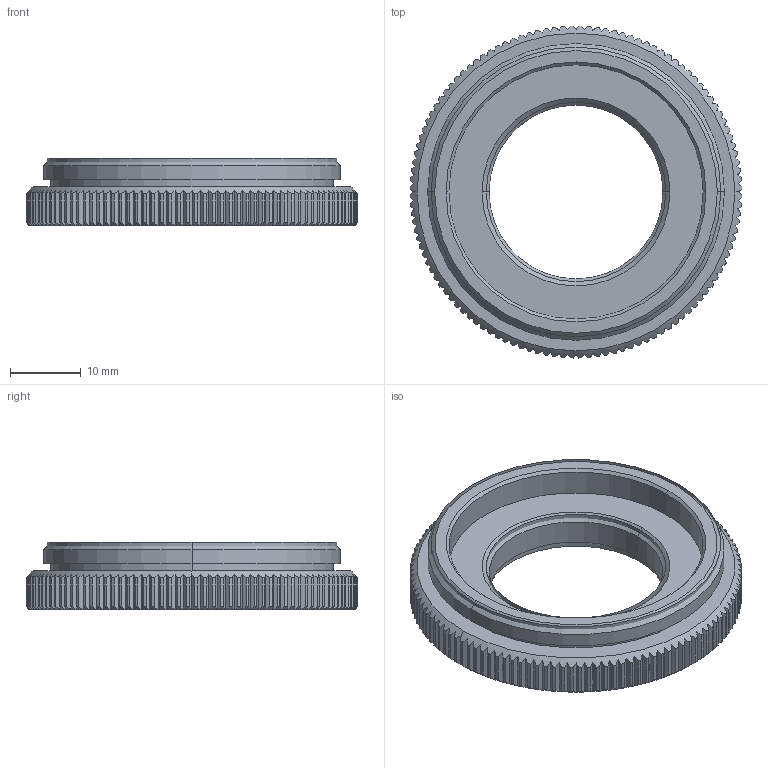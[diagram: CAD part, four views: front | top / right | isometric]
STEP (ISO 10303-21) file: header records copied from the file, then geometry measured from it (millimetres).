
FILE_DESCRIPTION((''),'2;1');
FILE_NAME('D-01-34-26-0095','2022-01-12T11:08:42',('mafangning'),(''),'CREO PARAMETRIC BY PTC INC, 2020044','CREO PARAMETRIC BY PTC INC, 2020044','');
FILE_SCHEMA(('CONFIG_CONTROL_DESIGN'));
Length unit declared in the file: millimetre
Products named in the file (1): D-01-34-26-0095
Bounding box: 46.99 x 46.99 x 9.5 mm (x, y, z)
Volume: 7923.6 mm3; surface area: 5732 mm2
Topology: 1 solids, 3 shells, 507 faces, 1496 edges, 994 vertices
Faces by surface type: plane 245, cylinder 132, cone 130
Entity records: 18026 total; most frequent: CARTESIAN_POINT 5015, ORIENTED_EDGE 2984, DIRECTION 2426, EDGE_CURVE 1496, VERTEX_POINT 994, AXIS2_PLACEMENT_3D 902, VECTOR 622, LINE 622
